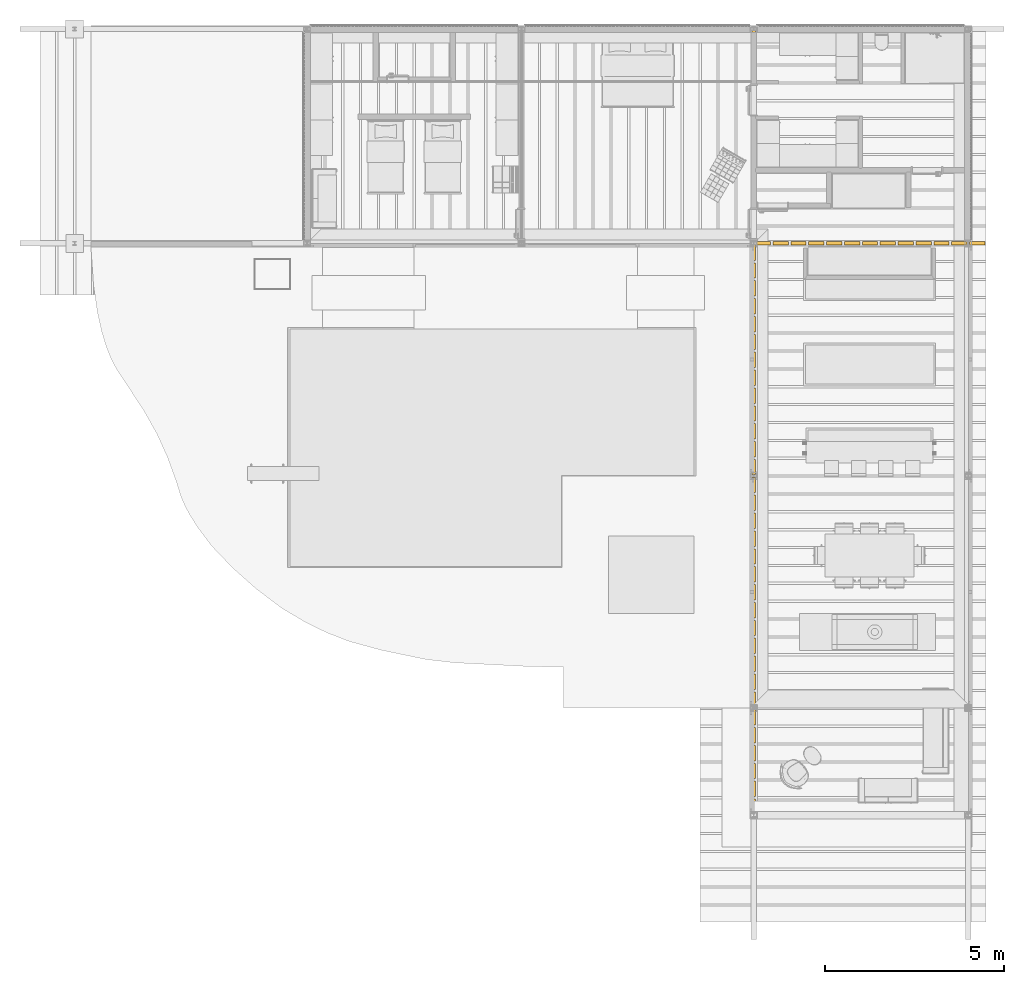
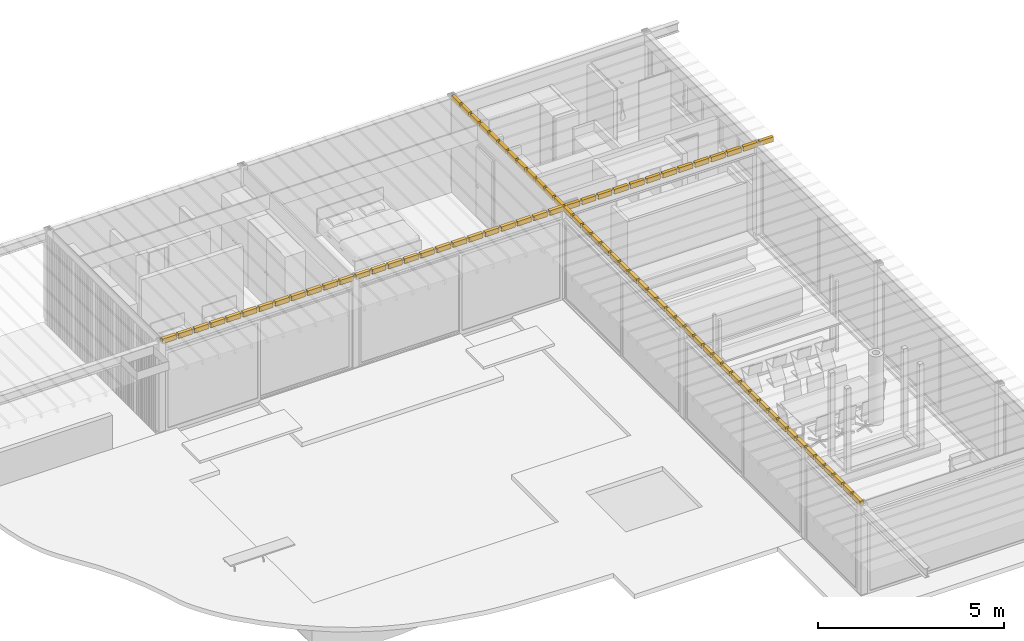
# One storey, part 18 of 28: 1 covering.
"""IFC4X3_ADD2 building model written with IfcOpenShell, lengths in metres."""

import ifcopenshell
import ifcopenshell.guid

model = None  # the IFC model being written
_history = None  # IfcOwnerHistory: only IFC2X3 demands one
_inside = {}  # id of a spatial element -> (the spatial element, [elements in it])
_under = {}  # id of a project, library or spatial element -> (it, [spatial elements below it])
_declared = {}  # id of a project -> (the project, [libraries it declares])
_typed = {}  # id of a type object -> (the type object, [elements of that type])
_made_of = {}  # id of a material, layer set ... -> (it, [elements and type objects made of it])


def new_model(schema):
    """Start an empty IFC model of exactly this schema.

    Asked for "IFC4X3", IfcOpenShell would pick the latest addendum, in which some entities
    have other attributes; the version numbers below select the first issue.
    IFC2X3 requires an IfcOwnerHistory on every rooted entity: one is made here for all.
    """
    global model, _history
    if schema == "IFC4X3":
        model = ifcopenshell.file(schema_version=(4, 3, 0, 0))
    else:
        model = ifcopenshell.file(schema=schema)
    _inside.clear()
    _under.clear()
    _declared.clear()
    _typed.clear()
    _made_of.clear()
    _history = None
    if model.schema == "IFC2X3":
        org = make("IfcOrganization", Name="unknown")
        user = make(
            "IfcPersonAndOrganization",
            ThePerson=make("IfcPerson", FamilyName="unknown"),
            TheOrganization=org,
        )
        app = make(
            "IfcApplication",
            ApplicationDeveloper=org,
            Version="unknown",
            ApplicationFullName="unknown",
            ApplicationIdentifier="unknown",
        )
        _history = make(
            "IfcOwnerHistory",
            OwningUser=user,
            OwningApplication=app,
            ChangeAction="ADDED",
            CreationDate=0,
        )
    return model


def make(cls, **values):
    """One entity of the class cls with the attributes given. An attribute that is None is left unset."""
    return model.create_entity(
        cls, **{name: value for name, value in values.items() if value is not None}
    )


def rooted(cls, **values):
    """An entity with a GlobalId (a new one), such as an element, a storey or a relation."""
    return make(cls, GlobalId=ifcopenshell.guid.new(), OwnerHistory=_history, **values)


def si_unit(unit_type, name, prefix=None):
    """IfcSIUnit, for example si_unit("LENGTHUNIT", "METRE", prefix="MILLI")."""
    return make("IfcSIUnit", UnitType=unit_type, Prefix=prefix, Name=name)


def assignment(units):
    """IfcUnitAssignment: the units of a project."""
    return None if units is None else make("IfcUnitAssignment", Units=units)


def point(xyz):
    """IfcCartesianPoint."""
    return None if xyz is None else make("IfcCartesianPoint", Coordinates=xyz)


def direction(xyz):
    """IfcDirection."""
    return None if xyz is None else make("IfcDirection", DirectionRatios=xyz)


def frame(location, z_axis=None, x_axis=None):
    """IfcAxis2Placement3D, a coordinate frame: its origin and axes. An axis left out is left unset."""
    return make(
        "IfcAxis2Placement3D",
        Location=point(location),
        Axis=direction(z_axis),
        RefDirection=direction(x_axis),
    )


def frame_2d(location, x_axis=None):
    """IfcAxis2Placement2D, a coordinate frame in the plane: its origin and x axis."""
    return make(
        "IfcAxis2Placement2D", Location=point(location), RefDirection=direction(x_axis)
    )


def origin_with_axes():
    """The frame at (0, 0, 0) with the z axis (0, 0, 1) and the x axis (1, 0, 0) written out."""
    return frame((0.0, 0.0, 0.0), z_axis=(0.0, 0.0, 1.0), x_axis=(1.0, 0.0, 0.0))


def origin_2d_with_axis():
    """The frame at (0, 0) in the plane with the x axis (1, 0) written out."""
    return frame_2d((0.0, 0.0), x_axis=(1.0, 0.0))


def place(relative_to, where):
    """IfcLocalPlacement: puts the frame where relative to a parent placement (None: the world)."""
    return make(
        "IfcLocalPlacement", PlacementRelTo=relative_to, RelativePlacement=where
    )


def context(
    kind, dimensions, precision=None, world=None, true_north=None, identifier=None
):
    """IfcGeometricRepresentationContext, for example the 3D "Model" context."""
    return make(
        "IfcGeometricRepresentationContext",
        ContextIdentifier=identifier,
        ContextType=kind,
        CoordinateSpaceDimension=dimensions,
        Precision=precision,
        WorldCoordinateSystem=world,
        TrueNorth=true_north,
    )


def subcontext(parent, identifier, kind, view, scale=None):
    """IfcGeometricRepresentationSubContext, for example "Body" below "Model"."""
    return make(
        "IfcGeometricRepresentationSubContext",
        ContextIdentifier=identifier,
        ContextType=kind,
        ParentContext=parent,
        TargetScale=scale,
        TargetView=view,
    )


def project(units=None, contexts=None):
    """IfcProject with its units and contexts."""
    return rooted(
        "IfcProject",
        Name="project",
        RepresentationContexts=contexts,
        UnitsInContext=assignment(units),
    )


def spatial(cls, under=None, at=None, **own):
    """A site, building, storey or space (cls), placed at a placement, below another one or the project."""
    s = rooted(cls, ObjectPlacement=at, **own)
    if under is not None:
        _under.setdefault(under.id(), (under, []))[1].append(s)
    return s


def profile(cls, at=None, kind="AREA", **sizes):
    """A parametric profile (cls). Its sizes go by their IFC names, for example OverallWidth=200.0."""
    return make(cls, ProfileType=kind, Position=at, **sizes)


def rectangle(**sizes):
    """IfcRectangleProfileDef."""
    return profile("IfcRectangleProfileDef", **sizes)


def extrude(swept, where, along, depth):
    """IfcExtrudedAreaSolid: the profile swept, set in the frame where, extruded along a direction by depth."""
    return make(
        "IfcExtrudedAreaSolid",
        SweptArea=swept,
        Position=where,
        ExtrudedDirection=direction(along),
        Depth=depth,
    )


def shape(context_of_items, identifier, shape_type, items):
    """IfcShapeRepresentation: the items that make up one representation, for example the "Body"."""
    return make(
        "IfcShapeRepresentation",
        ContextOfItems=context_of_items,
        RepresentationIdentifier=identifier,
        RepresentationType=shape_type,
        Items=items,
    )


def source(mapping_origin, context_of_items, identifier, shape_type, items):
    """IfcRepresentationMap: a shape defined once, which mapped items show again and again."""
    return make(
        "IfcRepresentationMap",
        MappingOrigin=mapping_origin,
        MappedRepresentation=shape(context_of_items, identifier, shape_type, items),
    )


def transform(
    local_origin,
    x_axis=None,
    y_axis=None,
    z_axis=None,
    scale=None,
    scale2=None,
    scale3=None,
    uniform=True,
):
    """IfcCartesianTransformationOperator3D, or its non-uniform kind. x_axis, y_axis, z_axis: its Axis1, 2, 3."""
    if uniform:
        return make(
            "IfcCartesianTransformationOperator3D",
            Axis1=direction(x_axis),
            Axis2=direction(y_axis),
            LocalOrigin=point(local_origin),
            Scale=scale,
            Axis3=direction(z_axis),
        )
    return make(
        "IfcCartesianTransformationOperator3DnonUniform",
        Axis1=direction(x_axis),
        Axis2=direction(y_axis),
        LocalOrigin=point(local_origin),
        Scale=scale,
        Axis3=direction(z_axis),
        Scale2=scale2,
        Scale3=scale3,
    )


def mapped(mapping_source, mapping_target):
    """IfcMappedItem: shows the shape of a source again, moved by a transform."""
    return make(
        "IfcMappedItem", MappingSource=mapping_source, MappingTarget=mapping_target
    )


def material(Name=None, Category=None):
    """IfcMaterial."""
    return make("IfcMaterial", Name=Name, Category=Category)


def made_of(thing, what):
    """Note that an element or type object is made of a material, layer set ...; save() writes the relation."""
    if what is not None:
        _made_of.setdefault(what.id(), (what, []))[1].append(thing)
    return thing


def type_object(cls, material=None, **own):
    """A type object (cls), such as IfcWallType, which elements share."""
    return made_of(rooted(cls, **own), material)


def type_shapes(of_type, sources):
    """Give a type object the sources (RepresentationMaps) that its elements show as mapped items."""
    of_type.RepresentationMaps = sources


def element(
    cls,
    number,
    at=None,
    inside=None,
    cuts=None,
    type_object=None,
    material=None,
    context=None,
    identifier="Body",
    shape_type=None,
    held_by="IfcProductDefinitionShape",
    body=None,
    shapes=None,
    **own,
):
    """One element of the class cls, such as IfcWall. Its Tag is "e" and its number.

    at: its placement. inside: the storey or other place that contains it. cuts: it is an
    opening in that element (IfcRelVoidsElement). A single representation is given by context,
    identifier, shape_type and body (its items); several are given by shapes. held_by: the class
    of the entity that holds the representations. save() writes the other relations.
    """
    e = rooted(cls, Tag="e%d" % number, ObjectPlacement=at, **own)
    if body is not None:
        shapes = [shape(context, identifier, shape_type, body)]
    if shapes is not None:
        e.Representation = make(held_by, Representations=shapes)
    if inside is not None:
        _inside.setdefault(inside.id(), (inside, []))[1].append(e)
    if cuts is not None:
        rooted(
            "IfcRelVoidsElement", RelatingBuildingElement=cuts, RelatedOpeningElement=e
        )
    if type_object is not None:
        _typed.setdefault(type_object.id(), (type_object, []))[1].append(e)
    return made_of(e, material)


def aggregate(whole, parts):
    """IfcRelAggregates: a whole, such as a stair, and the parts it consists of."""
    return rooted("IfcRelAggregates", RelatingObject=whole, RelatedObjects=parts)


def save(model, path):
    """Write the relations noted so far, then the file.

    IfcRelAggregates (storeys below a building ...), IfcRelContainedInSpatialStructure (elements
    in a storey), IfcRelDefinesByType, IfcRelAssociatesMaterial and IfcRelDeclares: one each for
    every whole, place, type object, material and project.
    """
    for whole, parts in _under.values():
        aggregate(whole, parts)
    for where, things in _inside.values():
        rooted(
            "IfcRelContainedInSpatialStructure",
            RelatedElements=things,
            RelatingStructure=where,
        )
    for kind, things in _typed.values():
        rooted("IfcRelDefinesByType", RelatedObjects=things, RelatingType=kind)
    for what, things in _made_of.values():
        rooted("IfcRelAssociatesMaterial", RelatedObjects=things, RelatingMaterial=what)
    for by, libraries in _declared.values():
        rooted("IfcRelDeclares", RelatingContext=by, RelatedDefinitions=libraries)
    model.write(path)


model = new_model("IFC4X3_ADD2")

# Units and contexts
model_context = context("Model", 3, precision=1e-05, world=origin_with_axes(), true_north=direction((0.0, 1.0)))
body_context = subcontext(model_context, "Body", "Model", "MODEL_VIEW")
ifc_project = project(units=[si_unit("LENGTHUNIT", "METRE"), si_unit("AREAUNIT", "SQUARE_METRE"), si_unit("VOLUMEUNIT", "CUBIC_METRE"), si_unit("PLANEANGLEUNIT", "RADIAN"), si_unit("TIMEUNIT", "SECOND"), si_unit("MASSUNIT", "GRAM")], contexts=[model_context])

# Site, building, storey
site_placement = place(None, origin_with_axes())
site = spatial("IfcSite", under=ifc_project, at=site_placement, Name="Site", CompositionType="ELEMENT")
building_placement = place(site_placement, origin_with_axes())
building = spatial("IfcBuilding", under=site, at=building_placement, Name="Default Building")
storey_placement = place(building_placement, frame((0.0, 0.0, -0.08), z_axis=(0.0, 0.0, 1.0), x_axis=(1.0, 0.0, 0.0)))
storey = spatial("IfcBuildingStorey", under=building, at=storey_placement, Name="Gruendung", Elevation=-0.08)

# Covering
ifc_material = material(Name="Default")
covering_type = type_object("IfcCoveringType", Name="IfcCovering5", PredefinedType="NOTDEFINED")
shared_shape = source(origin_with_axes(), body_context, "Body", "SweptSolid", [
    extrude(rectangle(XDim=0.4299999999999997, YDim=0.09999999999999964, at=origin_2d_with_axis()), frame((6.75, 16.0, 2.900005), z_axis=(0.0, 0.0, 1.0), x_axis=(1.0, 0.0, 0.0)), (0.0, 0.0, 1.0), 0.1549999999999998),
    extrude(rectangle(XDim=0.4299999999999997, YDim=0.09999999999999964, at=origin_2d_with_axis()), frame((7.25, 16.0, 2.900005), z_axis=(0.0, 0.0, 1.0), x_axis=(1.0, 0.0, 0.0)), (0.0, 0.0, 1.0), 0.1549999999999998),
    extrude(rectangle(XDim=0.4299999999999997, YDim=0.09999999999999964, at=origin_2d_with_axis()), frame((7.75, 16.0, 2.900005), z_axis=(0.0, 0.0, 1.0), x_axis=(1.0, 0.0, 0.0)), (0.0, 0.0, 1.0), 0.1549999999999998),
    extrude(rectangle(XDim=0.4299999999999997, YDim=0.09999999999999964, at=origin_2d_with_axis()), frame((8.25, 16.0, 2.900005), z_axis=(0.0, 0.0, 1.0), x_axis=(1.0, 0.0, 0.0)), (0.0, 0.0, 1.0), 0.1549999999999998),
    extrude(rectangle(XDim=0.4299999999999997, YDim=0.09999999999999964, at=origin_2d_with_axis()), frame((8.75, 16.0, 2.900005), z_axis=(0.0, 0.0, 1.0), x_axis=(1.0, 0.0, 0.0)), (0.0, 0.0, 1.0), 0.1549999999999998),
    extrude(rectangle(XDim=0.4299999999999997, YDim=0.09999999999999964, at=origin_2d_with_axis()), frame((9.25, 16.0, 2.900005), z_axis=(0.0, 0.0, 1.0), x_axis=(1.0, 0.0, 0.0)), (0.0, 0.0, 1.0), 0.1549999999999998),
    extrude(rectangle(XDim=0.4299999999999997, YDim=0.09999999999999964, at=origin_2d_with_axis()), frame((9.75, 16.0, 2.900005), z_axis=(0.0, 0.0, 1.0), x_axis=(1.0, 0.0, 0.0)), (0.0, 0.0, 1.0), 0.1549999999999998),
    extrude(rectangle(XDim=0.4299999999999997, YDim=0.09999999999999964, at=origin_2d_with_axis()), frame((10.25, 16.0, 2.900005), z_axis=(0.0, 0.0, 1.0), x_axis=(1.0, 0.0, 0.0)), (0.0, 0.0, 1.0), 0.1549999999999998),
    extrude(rectangle(XDim=0.4299999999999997, YDim=0.09999999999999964, at=origin_2d_with_axis()), frame((10.75, 16.0, 2.900005), z_axis=(0.0, 0.0, 1.0), x_axis=(1.0, 0.0, 0.0)), (0.0, 0.0, 1.0), 0.1549999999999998),
    extrude(rectangle(XDim=0.4299999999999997, YDim=0.09999999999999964, at=origin_2d_with_axis()), frame((11.25, 16.0, 2.900005), z_axis=(0.0, 0.0, 1.0), x_axis=(1.0, 0.0, 0.0)), (0.0, 0.0, 1.0), 0.1549999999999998),
    extrude(rectangle(XDim=0.4299999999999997, YDim=0.09999999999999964, at=origin_2d_with_axis()), frame((11.75, 16.0, 2.900005), z_axis=(0.0, 0.0, 1.0), x_axis=(1.0, 0.0, 0.0)), (0.0, 0.0, 1.0), 0.1549999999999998),
    extrude(rectangle(XDim=0.4299999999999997, YDim=0.09999999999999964, at=origin_2d_with_axis()), frame((12.25, 16.0, 2.900005), z_axis=(0.0, 0.0, 1.0), x_axis=(1.0, 0.0, 0.0)), (0.0, 0.0, 1.0), 0.1549999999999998),
    extrude(rectangle(XDim=0.4299999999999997, YDim=0.09999999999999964, at=origin_2d_with_axis()), frame((12.75, 16.0, 2.900005), z_axis=(0.0, 0.0, 1.0), x_axis=(1.0, 0.0, 0.0)), (0.0, 0.0, 1.0), 0.1549999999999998),
    extrude(rectangle(XDim=0.4299999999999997, YDim=0.09999999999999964, at=origin_2d_with_axis()), frame((13.25, 16.0, 2.900005), z_axis=(0.0, 0.0, 1.0), x_axis=(1.0, 0.0, 0.0)), (0.0, 0.0, 1.0), 0.1549999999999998),
    extrude(rectangle(XDim=0.4299999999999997, YDim=0.09999999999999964, at=origin_2d_with_axis()), frame((13.75, 16.0, 2.900005), z_axis=(0.0, 0.0, 1.0), x_axis=(1.0, 0.0, 0.0)), (0.0, 0.0, 1.0), 0.1549999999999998),
    extrude(rectangle(XDim=0.4299999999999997, YDim=0.09999999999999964, at=origin_2d_with_axis()), frame((14.25, 16.0, 2.900005), z_axis=(0.0, 0.0, 1.0), x_axis=(1.0, 0.0, 0.0)), (0.0, 0.0, 1.0), 0.1549999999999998),
    extrude(rectangle(XDim=0.4299999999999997, YDim=0.09999999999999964, at=origin_2d_with_axis()), frame((14.75, 16.0, 2.900005), z_axis=(0.0, 0.0, 1.0), x_axis=(1.0, 0.0, 0.0)), (0.0, 0.0, 1.0), 0.1549999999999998),
    extrude(rectangle(XDim=0.4299999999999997, YDim=0.09999999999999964, at=origin_2d_with_axis()), frame((15.25, 16.0, 2.900005), z_axis=(0.0, 0.0, 1.0), x_axis=(1.0, 0.0, 0.0)), (0.0, 0.0, 1.0), 0.1549999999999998),
    extrude(rectangle(XDim=0.4299999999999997, YDim=0.09999999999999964, at=origin_2d_with_axis()), frame((15.75, 16.0, 2.900005), z_axis=(0.0, 0.0, 1.0), x_axis=(1.0, 0.0, 0.0)), (0.0, 0.0, 1.0), 0.1549999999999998),
    extrude(rectangle(XDim=0.4299999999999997, YDim=0.09999999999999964, at=origin_2d_with_axis()), frame((16.25, 16.0, 2.900005), z_axis=(0.0, 0.0, 1.0), x_axis=(1.0, 0.0, 0.0)), (0.0, 0.0, 1.0), 0.1549999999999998),
    extrude(rectangle(XDim=0.4299999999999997, YDim=0.09999999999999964, at=origin_2d_with_axis()), frame((16.75, 16.0, 2.900005), z_axis=(0.0, 0.0, 1.0), x_axis=(1.0, 0.0, 0.0)), (0.0, 0.0, 1.0), 0.1549999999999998),
    extrude(rectangle(XDim=0.4299999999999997, YDim=0.09999999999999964, at=origin_2d_with_axis()), frame((17.25, 16.0, 2.900005), z_axis=(0.0, 0.0, 1.0), x_axis=(1.0, 0.0, 0.0)), (0.0, 0.0, 1.0), 0.1549999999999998),
    extrude(rectangle(XDim=0.4299999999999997, YDim=0.09999999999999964, at=origin_2d_with_axis()), frame((17.75, 16.0, 2.900005), z_axis=(0.0, 0.0, 1.0), x_axis=(1.0, 0.0, 0.0)), (0.0, 0.0, 1.0), 0.1549999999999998),
    extrude(rectangle(XDim=0.4299999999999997, YDim=0.09999999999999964, at=origin_2d_with_axis()), frame((18.25, 16.0, 2.900005), z_axis=(0.0, 0.0, 1.0), x_axis=(1.0, 0.0, 0.0)), (0.0, 0.0, 1.0), 0.1549999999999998),
    extrude(rectangle(XDim=0.4299999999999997, YDim=0.09999999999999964, at=origin_2d_with_axis()), frame((18.75, 16.0, 2.900005), z_axis=(0.0, 0.0, 1.0), x_axis=(1.0, 0.0, 0.0)), (0.0, 0.0, 1.0), 0.1549999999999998),
    extrude(rectangle(XDim=0.4299999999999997, YDim=0.09999999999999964, at=origin_2d_with_axis()), frame((19.25, 16.0, 2.900005), z_axis=(0.0, 0.0, 1.0), x_axis=(1.0, 0.0, 0.0)), (0.0, 0.0, 1.0), 0.1549999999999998),
    extrude(rectangle(XDim=0.4299999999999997, YDim=0.09999999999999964, at=origin_2d_with_axis()), frame((19.75, 16.0, 2.900005), z_axis=(0.0, 0.0, 1.0), x_axis=(1.0, 0.0, 0.0)), (0.0, 0.0, 1.0), 0.1549999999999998),
    extrude(rectangle(XDim=0.4299999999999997, YDim=0.09999999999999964, at=origin_2d_with_axis()), frame((20.25, 16.0, 2.900005), z_axis=(0.0, 0.0, 1.0), x_axis=(1.0, 0.0, 0.0)), (0.0, 0.0, 1.0), 0.1549999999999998),
    extrude(rectangle(XDim=0.4299999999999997, YDim=0.09999999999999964, at=origin_2d_with_axis()), frame((20.75, 16.0, 2.900005), z_axis=(0.0, 0.0, 1.0), x_axis=(1.0, 0.0, 0.0)), (0.0, 0.0, 1.0), 0.1549999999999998),
    extrude(rectangle(XDim=0.4299999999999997, YDim=0.09999999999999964, at=origin_2d_with_axis()), frame((21.25, 16.0, 2.900005), z_axis=(0.0, 0.0, 1.0), x_axis=(1.0, 0.0, 0.0)), (0.0, 0.0, 1.0), 0.1549999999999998),
    extrude(rectangle(XDim=0.4299999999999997, YDim=0.09999999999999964, at=origin_2d_with_axis()), frame((21.75, 16.0, 2.900005), z_axis=(0.0, 0.0, 1.0), x_axis=(1.0, 0.0, 0.0)), (0.0, 0.0, 1.0), 0.1549999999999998),
    extrude(rectangle(XDim=0.4299999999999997, YDim=0.09999999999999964, at=origin_2d_with_axis()), frame((22.25, 16.0, 2.900005), z_axis=(0.0, 0.0, 1.0), x_axis=(1.0, 0.0, 0.0)), (0.0, 0.0, 1.0), 0.1549999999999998),
    extrude(rectangle(XDim=0.4299999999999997, YDim=0.09999999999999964, at=origin_2d_with_axis()), frame((22.75, 16.0, 2.900005), z_axis=(0.0, 0.0, 1.0), x_axis=(1.0, 0.0, 0.0)), (0.0, 0.0, 1.0), 0.1549999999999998),
    extrude(rectangle(XDim=0.4299999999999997, YDim=0.09999999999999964, at=origin_2d_with_axis()), frame((23.25, 16.0, 2.900005), z_axis=(0.0, 0.0, 1.0), x_axis=(1.0, 0.0, 0.0)), (0.0, 0.0, 1.0), 0.1549999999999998),
    extrude(rectangle(XDim=0.4299999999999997, YDim=0.09999999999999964, at=origin_2d_with_axis()), frame((23.75, 16.0, 2.900005), z_axis=(0.0, 0.0, 1.0), x_axis=(1.0, 0.0, 0.0)), (0.0, 0.0, 1.0), 0.1549999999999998),
    extrude(rectangle(XDim=0.4299999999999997, YDim=0.09999999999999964, at=origin_2d_with_axis()), frame((24.25, 16.0, 2.900005), z_axis=(0.0, 0.0, 1.0), x_axis=(1.0, 0.0, 0.0)), (0.0, 0.0, 1.0), 0.1549999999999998),
    extrude(rectangle(XDim=0.4299999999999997, YDim=0.09999999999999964, at=origin_2d_with_axis()), frame((24.75, 16.0, 2.900005), z_axis=(0.0, 0.0, 1.0), x_axis=(1.0, 0.0, 0.0)), (0.0, 0.0, 1.0), 0.1549999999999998),
    extrude(rectangle(XDim=0.4299999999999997, YDim=0.09999999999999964, at=origin_2d_with_axis()), frame((25.25, 16.0, 2.900005), z_axis=(0.0, 0.0, 1.0), x_axis=(1.0, 0.0, 0.0)), (0.0, 0.0, 1.0), 0.1549999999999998),
    extrude(rectangle(XDim=0.43, YDim=0.09999999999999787, at=frame_2d((0.0, 0.0), x_axis=(0.0, 1.0))), frame((18.9996, 0.24, 2.900005), z_axis=(0.0, 0.0, 1.0), x_axis=(1.0, 0.0, 0.0)), (0.0, 0.0, 1.0), 0.1549999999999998),
    extrude(rectangle(XDim=0.43, YDim=0.09999999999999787, at=frame_2d((0.0, 0.0), x_axis=(0.0, 1.0))), frame((18.9996, 0.74, 2.900005), z_axis=(0.0, 0.0, 1.0), x_axis=(1.0, 0.0, 0.0)), (0.0, 0.0, 1.0), 0.1549999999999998),
    extrude(rectangle(XDim=0.4300000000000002, YDim=0.09999999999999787, at=frame_2d((0.0, 0.0), x_axis=(0.0, 1.0))), frame((18.9996, 1.24, 2.900005), z_axis=(0.0, 0.0, 1.0), x_axis=(1.0, 0.0, 0.0)), (0.0, 0.0, 1.0), 0.1549999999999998),
    extrude(rectangle(XDim=0.4299999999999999, YDim=0.09999999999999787, at=frame_2d((0.0, 0.0), x_axis=(0.0, 1.0))), frame((18.9996, 1.74, 2.900005), z_axis=(0.0, 0.0, 1.0), x_axis=(1.0, 0.0, 0.0)), (0.0, 0.0, 1.0), 0.1549999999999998),
    extrude(rectangle(XDim=0.4300000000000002, YDim=0.09999999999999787, at=frame_2d((0.0, 0.0), x_axis=(0.0, 1.0))), frame((18.9996, 2.24, 2.900005), z_axis=(0.0, 0.0, 1.0), x_axis=(1.0, 0.0, 0.0)), (0.0, 0.0, 1.0), 0.1549999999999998),
    extrude(rectangle(XDim=0.4300000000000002, YDim=0.09999999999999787, at=frame_2d((0.0, 0.0), x_axis=(0.0, 1.0))), frame((18.9996, 2.74, 2.900005), z_axis=(0.0, 0.0, 1.0), x_axis=(1.0, 0.0, 0.0)), (0.0, 0.0, 1.0), 0.1549999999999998),
    extrude(rectangle(XDim=0.4300000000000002, YDim=0.09999999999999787, at=frame_2d((0.0, 0.0), x_axis=(0.0, 1.0))), frame((18.9996, 3.74, 2.900005), z_axis=(0.0, 0.0, 1.0), x_axis=(1.0, 0.0, 0.0)), (0.0, 0.0, 1.0), 0.1549999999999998),
    extrude(rectangle(XDim=0.4299999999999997, YDim=0.09999999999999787, at=frame_2d((0.0, 0.0), x_axis=(0.0, 1.0))), frame((18.9996, 4.24, 2.900005), z_axis=(0.0, 0.0, 1.0), x_axis=(1.0, 0.0, 0.0)), (0.0, 0.0, 1.0), 0.1549999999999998),
    extrude(rectangle(XDim=0.4299999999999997, YDim=0.09999999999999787, at=frame_2d((0.0, 0.0), x_axis=(0.0, 1.0))), frame((18.9996, 4.74, 2.900005), z_axis=(0.0, 0.0, 1.0), x_axis=(1.0, 0.0, 0.0)), (0.0, 0.0, 1.0), 0.1549999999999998),
    extrude(rectangle(XDim=0.4299999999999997, YDim=0.09999999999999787, at=frame_2d((0.0, 0.0), x_axis=(0.0, 1.0))), frame((18.9996, 5.24, 2.900005), z_axis=(0.0, 0.0, 1.0), x_axis=(1.0, 0.0, 0.0)), (0.0, 0.0, 1.0), 0.1549999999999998),
    extrude(rectangle(XDim=0.4299999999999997, YDim=0.09999999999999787, at=frame_2d((0.0, 0.0), x_axis=(0.0, 1.0))), frame((18.9996, 5.74, 2.900005), z_axis=(0.0, 0.0, 1.0), x_axis=(1.0, 0.0, 0.0)), (0.0, 0.0, 1.0), 0.1549999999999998),
    extrude(rectangle(XDim=0.4299999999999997, YDim=0.09999999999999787, at=frame_2d((0.0, 0.0), x_axis=(0.0, 1.0))), frame((18.9996, 6.24, 2.900005), z_axis=(0.0, 0.0, 1.0), x_axis=(1.0, 0.0, 0.0)), (0.0, 0.0, 1.0), 0.1549999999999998),
    extrude(rectangle(XDim=0.4299999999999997, YDim=0.09999999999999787, at=frame_2d((0.0, 0.0), x_axis=(0.0, 1.0))), frame((18.9996, 6.74, 2.900005), z_axis=(0.0, 0.0, 1.0), x_axis=(1.0, 0.0, 0.0)), (0.0, 0.0, 1.0), 0.1549999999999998),
    extrude(rectangle(XDim=0.4299999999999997, YDim=0.09999999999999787, at=frame_2d((0.0, 0.0), x_axis=(0.0, 1.0))), frame((18.9996, 7.24, 2.900005), z_axis=(0.0, 0.0, 1.0), x_axis=(1.0, 0.0, 0.0)), (0.0, 0.0, 1.0), 0.1549999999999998),
    extrude(rectangle(XDim=0.4299999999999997, YDim=0.09999999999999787, at=frame_2d((0.0, 0.0), x_axis=(0.0, 1.0))), frame((18.9996, 7.74, 2.900005), z_axis=(0.0, 0.0, 1.0), x_axis=(1.0, 0.0, 0.0)), (0.0, 0.0, 1.0), 0.1549999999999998),
    extrude(rectangle(XDim=0.4299999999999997, YDim=0.09999999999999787, at=frame_2d((0.0, 0.0), x_axis=(0.0, 1.0))), frame((18.9996, 8.24, 2.900005), z_axis=(0.0, 0.0, 1.0), x_axis=(1.0, 0.0, 0.0)), (0.0, 0.0, 1.0), 0.1549999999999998),
    extrude(rectangle(XDim=0.4299999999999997, YDim=0.09999999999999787, at=frame_2d((0.0, 0.0), x_axis=(0.0, 1.0))), frame((18.9996, 8.74, 2.900005), z_axis=(0.0, 0.0, 1.0), x_axis=(1.0, 0.0, 0.0)), (0.0, 0.0, 1.0), 0.1549999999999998),
    extrude(rectangle(XDim=0.4299999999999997, YDim=0.09999999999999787, at=frame_2d((0.0, 0.0), x_axis=(0.0, 1.0))), frame((18.9996, 9.24, 2.900005), z_axis=(0.0, 0.0, 1.0), x_axis=(1.0, 0.0, 0.0)), (0.0, 0.0, 1.0), 0.1549999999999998),
    extrude(rectangle(XDim=0.4299999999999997, YDim=0.09999999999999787, at=frame_2d((0.0, 0.0), x_axis=(0.0, 1.0))), frame((18.9996, 9.74, 2.900005), z_axis=(0.0, 0.0, 1.0), x_axis=(1.0, 0.0, 0.0)), (0.0, 0.0, 1.0), 0.1549999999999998),
    extrude(rectangle(XDim=0.4299999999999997, YDim=0.09999999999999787, at=frame_2d((0.0, 0.0), x_axis=(0.0, 1.0))), frame((18.9996, 10.24, 2.900005), z_axis=(0.0, 0.0, 1.0), x_axis=(1.0, 0.0, 0.0)), (0.0, 0.0, 1.0), 0.1549999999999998),
    extrude(rectangle(XDim=0.4299999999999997, YDim=0.09999999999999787, at=frame_2d((0.0, 0.0), x_axis=(0.0, 1.0))), frame((18.9996, 10.74, 2.900005), z_axis=(0.0, 0.0, 1.0), x_axis=(1.0, 0.0, 0.0)), (0.0, 0.0, 1.0), 0.1549999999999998),
    extrude(rectangle(XDim=0.4299999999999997, YDim=0.09999999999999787, at=frame_2d((0.0, 0.0), x_axis=(0.0, 1.0))), frame((18.9996, 11.24, 2.900005), z_axis=(0.0, 0.0, 1.0), x_axis=(1.0, 0.0, 0.0)), (0.0, 0.0, 1.0), 0.1549999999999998),
    extrude(rectangle(XDim=0.4299999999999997, YDim=0.09999999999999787, at=frame_2d((0.0, 0.0), x_axis=(0.0, 1.0))), frame((18.9996, 11.74, 2.900005), z_axis=(0.0, 0.0, 1.0), x_axis=(1.0, 0.0, 0.0)), (0.0, 0.0, 1.0), 0.1549999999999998),
    extrude(rectangle(XDim=0.4299999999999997, YDim=0.09999999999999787, at=frame_2d((0.0, 0.0), x_axis=(0.0, 1.0))), frame((18.9996, 12.24, 2.900005), z_axis=(0.0, 0.0, 1.0), x_axis=(1.0, 0.0, 0.0)), (0.0, 0.0, 1.0), 0.1549999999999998),
    extrude(rectangle(XDim=0.4299999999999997, YDim=0.09999999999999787, at=frame_2d((0.0, 0.0), x_axis=(0.0, 1.0))), frame((18.9996, 12.74, 2.900005), z_axis=(0.0, 0.0, 1.0), x_axis=(1.0, 0.0, 0.0)), (0.0, 0.0, 1.0), 0.1549999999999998),
    extrude(rectangle(XDim=0.4299999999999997, YDim=0.09999999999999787, at=frame_2d((0.0, 0.0), x_axis=(0.0, 1.0))), frame((18.9996, 13.24, 2.900005), z_axis=(0.0, 0.0, 1.0), x_axis=(1.0, 0.0, 0.0)), (0.0, 0.0, 1.0), 0.1549999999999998),
    extrude(rectangle(XDim=0.4299999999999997, YDim=0.09999999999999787, at=frame_2d((0.0, 0.0), x_axis=(0.0, 1.0))), frame((18.9996, 13.74, 2.900005), z_axis=(0.0, 0.0, 1.0), x_axis=(1.0, 0.0, 0.0)), (0.0, 0.0, 1.0), 0.1549999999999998),
    extrude(rectangle(XDim=0.4299999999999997, YDim=0.09999999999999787, at=frame_2d((0.0, 0.0), x_axis=(0.0, 1.0))), frame((18.9996, 14.24, 2.900005), z_axis=(0.0, 0.0, 1.0), x_axis=(1.0, 0.0, 0.0)), (0.0, 0.0, 1.0), 0.1549999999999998),
    extrude(rectangle(XDim=0.4299999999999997, YDim=0.09999999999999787, at=frame_2d((0.0, 0.0), x_axis=(0.0, 1.0))), frame((18.9996, 14.74, 2.900005), z_axis=(0.0, 0.0, 1.0), x_axis=(1.0, 0.0, 0.0)), (0.0, 0.0, 1.0), 0.1549999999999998),
    extrude(rectangle(XDim=0.4299999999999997, YDim=0.09999999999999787, at=frame_2d((0.0, 0.0), x_axis=(0.0, 1.0))), frame((18.9996, 15.24, 2.900005), z_axis=(0.0, 0.0, 1.0), x_axis=(1.0, 0.0, 0.0)), (0.0, 0.0, 1.0), 0.1549999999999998),
    extrude(rectangle(XDim=0.4299999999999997, YDim=0.09999999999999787, at=frame_2d((0.0, 0.0), x_axis=(0.0, 1.0))), frame((18.9996, 15.74, 2.900005), z_axis=(0.0, 0.0, 1.0), x_axis=(1.0, 0.0, 0.0)), (0.0, 0.0, 1.0), 0.1549999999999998),
    extrude(rectangle(XDim=0.4300000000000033, YDim=0.09999999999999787, at=frame_2d((0.0, 0.0), x_axis=(0.0, 1.0))), frame((18.9996, 16.24, 2.900005), z_axis=(0.0, 0.0, 1.0), x_axis=(1.0, 0.0, 0.0)), (0.0, 0.0, 1.0), 0.1549999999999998),
    extrude(rectangle(XDim=0.4300000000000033, YDim=0.09999999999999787, at=frame_2d((0.0, 0.0), x_axis=(0.0, 1.0))), frame((18.9996, 16.74, 2.900005), z_axis=(0.0, 0.0, 1.0), x_axis=(1.0, 0.0, 0.0)), (0.0, 0.0, 1.0), 0.1549999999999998),
    extrude(rectangle(XDim=0.4300000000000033, YDim=0.09999999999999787, at=frame_2d((0.0, 0.0), x_axis=(0.0, 1.0))), frame((18.9996, 17.24, 2.900005), z_axis=(0.0, 0.0, 1.0), x_axis=(1.0, 0.0, 0.0)), (0.0, 0.0, 1.0), 0.1549999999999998),
    extrude(rectangle(XDim=0.4299999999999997, YDim=0.09999999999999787, at=frame_2d((0.0, 0.0), x_axis=(0.0, 1.0))), frame((18.9996, 17.74, 2.900005), z_axis=(0.0, 0.0, 1.0), x_axis=(1.0, 0.0, 0.0)), (0.0, 0.0, 1.0), 0.1549999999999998),
    extrude(rectangle(XDim=0.4299999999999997, YDim=0.09999999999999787, at=frame_2d((0.0, 0.0), x_axis=(0.0, 1.0))), frame((18.9996, 18.24, 2.900005), z_axis=(0.0, 0.0, 1.0), x_axis=(1.0, 0.0, 0.0)), (0.0, 0.0, 1.0), 0.1549999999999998),
    extrude(rectangle(XDim=0.4299999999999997, YDim=0.09999999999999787, at=frame_2d((0.0, 0.0), x_axis=(0.0, 1.0))), frame((18.9996, 18.74, 2.900005), z_axis=(0.0, 0.0, 1.0), x_axis=(1.0, 0.0, 0.0)), (0.0, 0.0, 1.0), 0.1549999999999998),
    extrude(rectangle(XDim=0.4299999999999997, YDim=0.09999999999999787, at=frame_2d((0.0, 0.0), x_axis=(0.0, 1.0))), frame((18.9996, 19.24, 2.900005), z_axis=(0.0, 0.0, 1.0), x_axis=(1.0, 0.0, 0.0)), (0.0, 0.0, 1.0), 0.1549999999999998),
    extrude(rectangle(XDim=0.4299999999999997, YDim=0.09999999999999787, at=frame_2d((0.0, 0.0), x_axis=(0.0, 1.0))), frame((18.9996, 19.74, 2.900005), z_axis=(0.0, 0.0, 1.0), x_axis=(1.0, 0.0, 0.0)), (0.0, 0.0, 1.0), 0.1549999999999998),
    extrude(rectangle(XDim=0.4299999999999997, YDim=0.09999999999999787, at=frame_2d((0.0, 0.0), x_axis=(0.0, 1.0))), frame((18.9996, 20.24, 2.900005), z_axis=(0.0, 0.0, 1.0), x_axis=(1.0, 0.0, 0.0)), (0.0, 0.0, 1.0), 0.1549999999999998),
    extrude(rectangle(XDim=0.4299999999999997, YDim=0.09999999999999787, at=frame_2d((0.0, 0.0), x_axis=(0.0, 1.0))), frame((18.9996, 20.74, 2.900005), z_axis=(0.0, 0.0, 1.0), x_axis=(1.0, 0.0, 0.0)), (0.0, 0.0, 1.0), 0.1549999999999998),
    extrude(rectangle(XDim=0.4299999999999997, YDim=0.09999999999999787, at=frame_2d((0.0, 0.0), x_axis=(0.0, 1.0))), frame((18.9996, 21.24, 2.900005), z_axis=(0.0, 0.0, 1.0), x_axis=(1.0, 0.0, 0.0)), (0.0, 0.0, 1.0), 0.1549999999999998),
    extrude(rectangle(XDim=0.4299999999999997, YDim=0.09999999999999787, at=frame_2d((0.0, 0.0), x_axis=(0.0, 1.0))), frame((18.9996, 21.74, 2.900005), z_axis=(0.0, 0.0, 1.0), x_axis=(1.0, 0.0, 0.0)), (0.0, 0.0, 1.0), 0.1549999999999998),
    extrude(rectangle(XDim=0.4300000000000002, YDim=0.09999999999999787, at=frame_2d((0.0, 0.0), x_axis=(0.0, 1.0))), frame((18.9996, 3.24, 2.900005), z_axis=(0.0, 0.0, 1.0), x_axis=(1.0, 0.0, 0.0)), (0.0, 0.0, 1.0), 0.1549999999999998),
])
type_shapes(covering_type, [shared_shape])
covering_placement = place(storey_placement, origin_with_axes())
element("IfcCovering", 1, at=covering_placement, inside=storey, type_object=covering_type, material=ifc_material, Name="IfcCovering", context=body_context, shape_type="MappedRepresentation", body=[
    mapped(shared_shape, transform((0.0, 0.0, 0.0))),
])

save(model, "model.ifc")
